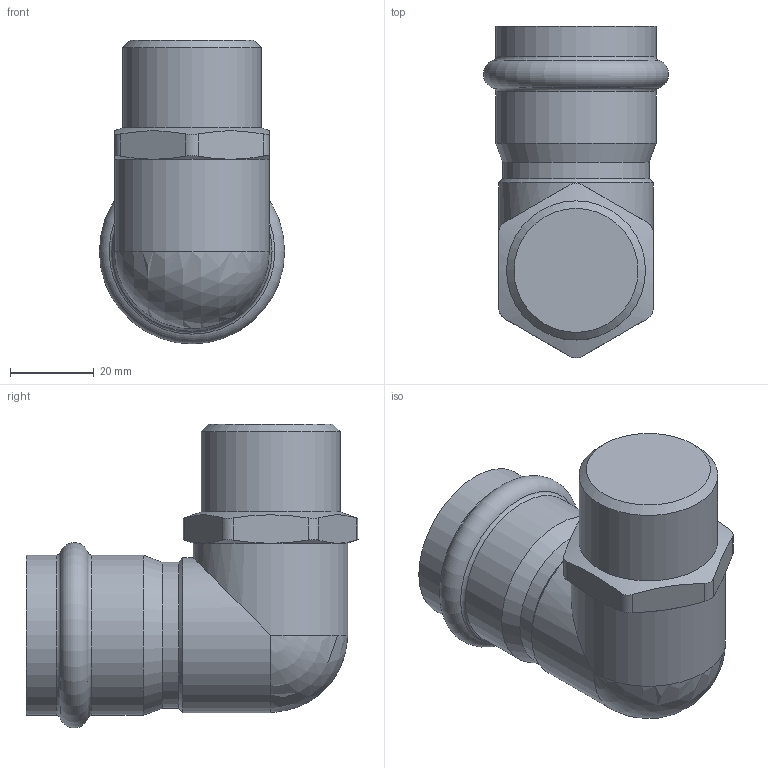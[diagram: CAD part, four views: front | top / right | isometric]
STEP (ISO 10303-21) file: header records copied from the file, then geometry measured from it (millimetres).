
FILE_DESCRIPTION(('STEP AP203'), '1');
FILE_NAME('VTi.953.I.003506', '', ('UNSPECIFIED'), ('UNSPECIFIED'), 'C3D Converter', 'C3D Toolkit', '');
FILE_SCHEMA(('CONFIG_CONTROL_DESIGN'));
Length unit declared in the file: millimetre
Bounding box: 44.28 x 79.39 x 72.64 mm (x, y, z)
Volume: 115078.6 mm3; surface area: 14982.1 mm2
Topology: 1 solids, 1 shells, 34 faces, 80 edges, 46 vertices
Faces by surface type: cylinder 12, cone 10, plane 8, torus 3, sphere 1
Full cylindrical faces by diameter (mm): 33.249 x1, 35 x1, 37 x2, 38.3 x2
Entity records: 1881 total; most frequent: CARTESIAN_POINT 1178, ORIENTED_EDGE 130, DIRECTION 124, EDGE_CURVE 65, AXIS2_PLACEMENT_3D 56, EDGE_LOOP 47, VERTEX_POINT 46, ADVANCED_FACE 34
